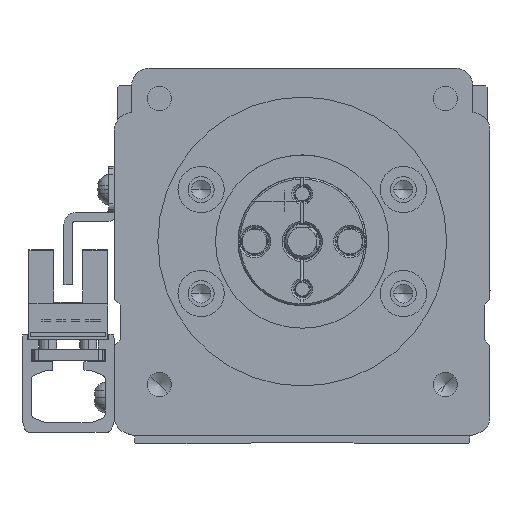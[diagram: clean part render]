
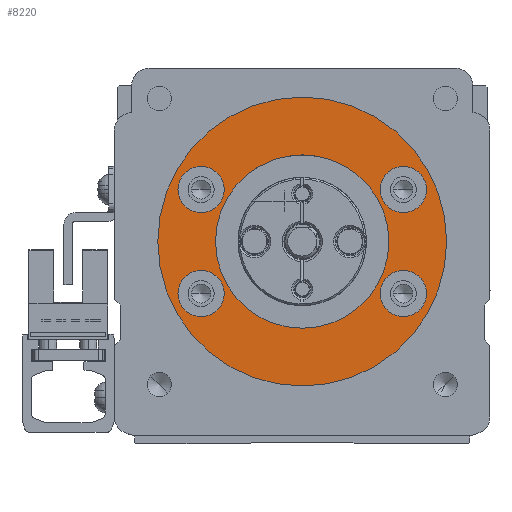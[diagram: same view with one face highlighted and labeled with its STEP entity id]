
A CAD part, front view. The second image highlights one B-rep face of the part: STEP entity #8220.
In plain terms, the highlighted planar face has unit normal (0, -1, 0).
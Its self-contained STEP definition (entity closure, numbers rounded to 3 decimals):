
#8220=ADVANCED_FACE('',(#16792,#16793,#16794,#16795,#16796,#16797),#16798,.F.);
#16792=FACE_BOUND('',#27027,.T.);
#16793=FACE_BOUND('',#27028,.T.);
#16794=FACE_BOUND('',#27029,.T.);
#16795=FACE_BOUND('',#27030,.T.);
#16796=FACE_BOUND('',#27031,.T.);
#16797=FACE_OUTER_BOUND('',#27032,.T.);
#16798=PLANE('',#27033);
#27027=EDGE_LOOP('',(#49837,#49838));
#27028=EDGE_LOOP('',(#49839,#49840));
#27029=EDGE_LOOP('',(#49841,#49842));
#27030=EDGE_LOOP('',(#49843,#49844));
#27031=EDGE_LOOP('',(#49845,#49846));
#27032=EDGE_LOOP('',(#49847,#49848));
#27033=AXIS2_PLACEMENT_3D('',#49849,#49850,#49851);
#49837=ORIENTED_EDGE('',*,*,#63942,.T.);
#49838=ORIENTED_EDGE('',*,*,#64177,.T.);
#49839=ORIENTED_EDGE('',*,*,#61157,.T.);
#49840=ORIENTED_EDGE('',*,*,#57878,.T.);
#49841=ORIENTED_EDGE('',*,*,#64178,.T.);
#49842=ORIENTED_EDGE('',*,*,#63950,.T.);
#49843=ORIENTED_EDGE('',*,*,#64179,.T.);
#49844=ORIENTED_EDGE('',*,*,#64180,.T.);
#49845=ORIENTED_EDGE('',*,*,#58171,.T.);
#49846=ORIENTED_EDGE('',*,*,#57159,.T.);
#49847=ORIENTED_EDGE('',*,*,#64172,.T.);
#49848=ORIENTED_EDGE('',*,*,#55188,.T.);
#49849=CARTESIAN_POINT('',(300.,90.,0.));
#49850=DIRECTION('',(0.,1.0,0.));
#49851=DIRECTION('',(1.0,0.,0.));
#55188=EDGE_CURVE('',#65587,#65584,#65588,.T.);
#57159=EDGE_CURVE('',#69076,#69080,#69082,.T.);
#57878=EDGE_CURVE('',#70264,#70268,#70270,.T.);
#58171=EDGE_CURVE('',#69080,#69076,#70762,.T.);
#61157=EDGE_CURVE('',#70268,#70264,#75268,.T.);
#63942=EDGE_CURVE('',#78817,#78815,#78818,.T.);
#63950=EDGE_CURVE('',#78825,#78827,#78829,.T.);
#64172=EDGE_CURVE('',#65584,#65587,#79072,.T.);
#64177=EDGE_CURVE('',#78815,#78817,#79077,.T.);
#64178=EDGE_CURVE('',#78827,#78825,#79078,.T.);
#64179=EDGE_CURVE('',#79079,#79080,#79081,.T.);
#64180=EDGE_CURVE('',#79080,#79079,#79082,.T.);
#65584=VERTEX_POINT('',#80697);
#65587=VERTEX_POINT('',#80701);
#65588=CIRCLE('',#80702,25.0);
#69076=VERTEX_POINT('',#85519);
#69080=VERTEX_POINT('',#85524);
#69082=CIRCLE('',#85527,15.0);
#70264=VERTEX_POINT('',#87145);
#70268=VERTEX_POINT('',#87150);
#70270=CIRCLE('',#87153,4.0);
#70762=CIRCLE('',#87853,15.0);
#75268=CIRCLE('',#94604,4.0);
#78815=VERTEX_POINT('',#99857);
#78817=VERTEX_POINT('',#99860);
#78818=CIRCLE('',#99861,4.0);
#78825=VERTEX_POINT('',#99870);
#78827=VERTEX_POINT('',#99873);
#78829=CIRCLE('',#99876,4.0);
#79072=CIRCLE('',#100218,25.0);
#79077=CIRCLE('',#100225,4.0);
#79078=CIRCLE('',#100226,4.0);
#79079=VERTEX_POINT('',#100227);
#79080=VERTEX_POINT('',#100228);
#79081=CIRCLE('',#100229,4.0);
#79082=CIRCLE('',#100230,4.0);
#80697=CARTESIAN_POINT('',(325.,90.,0.));
#80701=CARTESIAN_POINT('',(275.,90.,0.));
#80702=AXIS2_PLACEMENT_3D('',#101788,#101789,#101790);
#85519=CARTESIAN_POINT('',(315.,90.,0.));
#85524=CARTESIAN_POINT('',(285.,90.,0.));
#85527=AXIS2_PLACEMENT_3D('',#104402,#104403,#104404);
#87145=CARTESIAN_POINT('',(313.5,90.,-9.));
#87150=CARTESIAN_POINT('',(321.5,90.,-9.));
#87153=AXIS2_PLACEMENT_3D('',#105400,#105401,#105402);
#87853=AXIS2_PLACEMENT_3D('',#105796,#105797,#105798);
#94604=AXIS2_PLACEMENT_3D('',#109565,#109566,#109567);
#99857=CARTESIAN_POINT('',(278.5,90.,-9.));
#99860=CARTESIAN_POINT('',(286.5,90.,-9.));
#99861=AXIS2_PLACEMENT_3D('',#112557,#112558,#112559);
#99870=CARTESIAN_POINT('',(278.5,90.,9.));
#99873=CARTESIAN_POINT('',(286.5,90.,9.));
#99876=AXIS2_PLACEMENT_3D('',#112567,#112568,#112569);
#100218=AXIS2_PLACEMENT_3D('',#112778,#112779,#112780);
#100225=AXIS2_PLACEMENT_3D('',#112783,#112784,#112785);
#100226=AXIS2_PLACEMENT_3D('',#112786,#112787,#112788);
#100227=CARTESIAN_POINT('',(321.5,90.,9.));
#100228=CARTESIAN_POINT('',(313.5,90.,9.));
#100229=AXIS2_PLACEMENT_3D('',#112789,#112790,#112791);
#100230=AXIS2_PLACEMENT_3D('',#112792,#112793,#112794);
#101788=CARTESIAN_POINT('',(300.,90.,0.));
#101789=DIRECTION('',(0.,-1.0,0.));
#101790=DIRECTION('',(1.0,0.,0.));
#104402=CARTESIAN_POINT('',(300.,90.,0.));
#104403=DIRECTION('',(0.,1.0,0.));
#104404=DIRECTION('',(1.0,0.,0.));
#105400=CARTESIAN_POINT('',(317.5,90.,-9.));
#105401=DIRECTION('',(0.,1.0,0.));
#105402=DIRECTION('',(-1.0,0.,0.));
#105796=CARTESIAN_POINT('',(300.,90.,0.));
#105797=DIRECTION('',(0.,1.0,0.));
#105798=DIRECTION('',(1.0,0.,0.));
#109565=CARTESIAN_POINT('',(317.5,90.,-9.));
#109566=DIRECTION('',(0.,1.0,0.));
#109567=DIRECTION('',(-1.0,0.,0.));
#112557=CARTESIAN_POINT('',(282.5,90.,-9.));
#112558=DIRECTION('',(0.,1.0,0.));
#112559=DIRECTION('',(-1.0,0.,0.));
#112567=CARTESIAN_POINT('',(282.5,90.,9.));
#112568=DIRECTION('',(0.,1.0,0.));
#112569=DIRECTION('',(-1.0,0.,0.));
#112778=CARTESIAN_POINT('',(300.,90.,0.));
#112779=DIRECTION('',(0.,-1.0,0.));
#112780=DIRECTION('',(1.0,0.,0.));
#112783=CARTESIAN_POINT('',(282.5,90.,-9.));
#112784=DIRECTION('',(0.,1.0,0.));
#112785=DIRECTION('',(-1.0,0.,0.));
#112786=CARTESIAN_POINT('',(282.5,90.,9.));
#112787=DIRECTION('',(0.,1.0,0.));
#112788=DIRECTION('',(-1.0,0.,0.));
#112789=CARTESIAN_POINT('',(317.5,90.,9.));
#112790=DIRECTION('',(0.,1.0,0.));
#112791=DIRECTION('',(-1.0,0.,0.));
#112792=CARTESIAN_POINT('',(317.5,90.,9.));
#112793=DIRECTION('',(0.,1.0,0.));
#112794=DIRECTION('',(-1.0,0.,0.));
